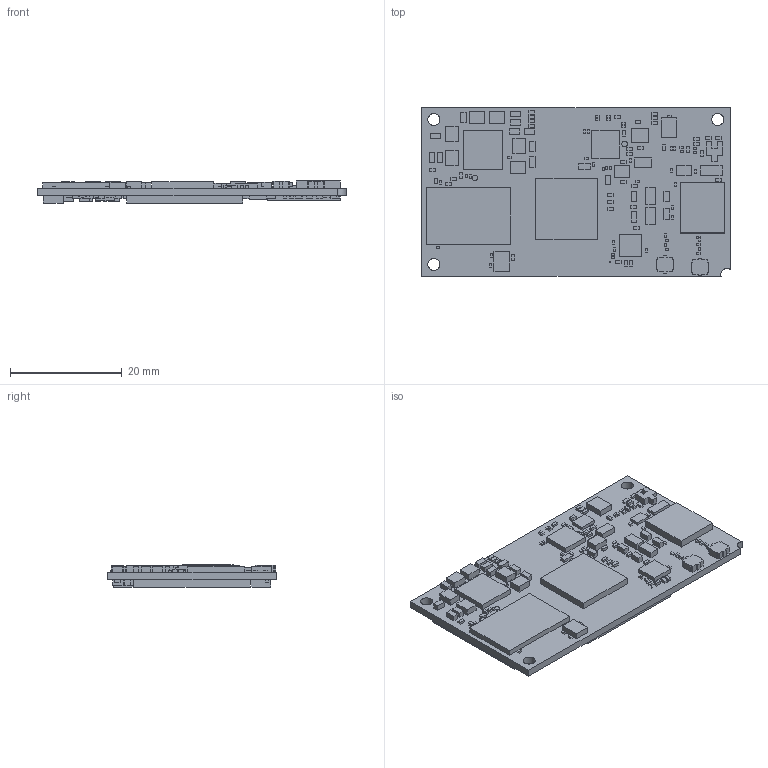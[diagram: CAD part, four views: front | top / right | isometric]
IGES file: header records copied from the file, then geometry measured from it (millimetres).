
Global section: file name: DART-MX91 v1; native system: unknown; preprocessor: unknown; author: unknown; organization: unknown; date: 20250406.122601; units: millimetre
Bounding box: 55.18 x 30.11 x 3.96 mm (x, y, z)
Volume: 3328.6 mm3; surface area: 6877 mm2
Topology: 286 solids, 286 shells, 1752 faces, 3540 edges, 2360 vertices
Faces by surface type: bspline 1752
